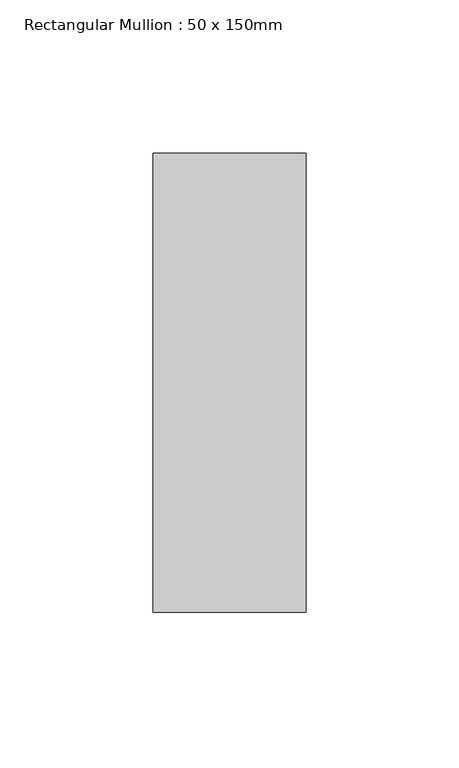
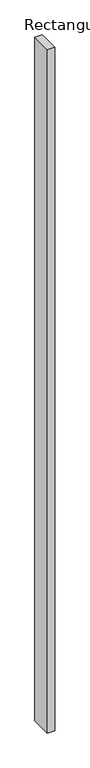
"""IFC4 building model written with IfcOpenShell, lengths in millimetres: member geometry, Rectangular Mullion : 50 x 150mm."""

from ifc_helpers import new_model, si_unit, frame, origin, place, context, project, spatial, polyline, outline, extrude, source, transform, mapped, element, save


def rectangular_mullion_50_x_150mm_b8fa2365(model_context):
    return source(origin(), model_context, "Body", "SweptSolid", [
        extrude(outline(polyline([(25.0, 75.0), (25.0, -75.0), (-25.0, -75.0), (-25.0, 75.0), (25.0, 75.0)])), frame((0.0, 0.0, -4986.860545), z_axis=(0.0, 0.0, 1.0), x_axis=(1.0, 0.0, 0.0)), (0.0, 0.0, 1.0), 4986.860545),
    ])


if __name__ == "__main__":
    model = new_model("IFC4")
    model_context = context("Model", 3, world=origin())
    ifc_project = project(units=[si_unit("LENGTHUNIT", "METRE", prefix="MILLI")], contexts=[model_context])
    site = spatial("IfcSite", under=ifc_project)
    building = spatial("IfcBuilding", under=site)
    placement = place(None, origin())
    rectangular_mullion_50_x_150mm_shape = rectangular_mullion_50_x_150mm_b8fa2365(model_context)
    element("IfcMember", 1, ObjectType="Rectangular Mullion : 50 x 150mm", at=placement, inside=building, context=model_context, shape_type="MappedRepresentation", body=[
        mapped(rectangular_mullion_50_x_150mm_shape, transform((0.0, 0.0, 0.0), x_axis=(1.0, 0.0, 0.0), y_axis=(0.0, 1.0, 0.0), z_axis=(0.0, 0.0, 1.0))),
    ])
    save(model, "model.ifc")
